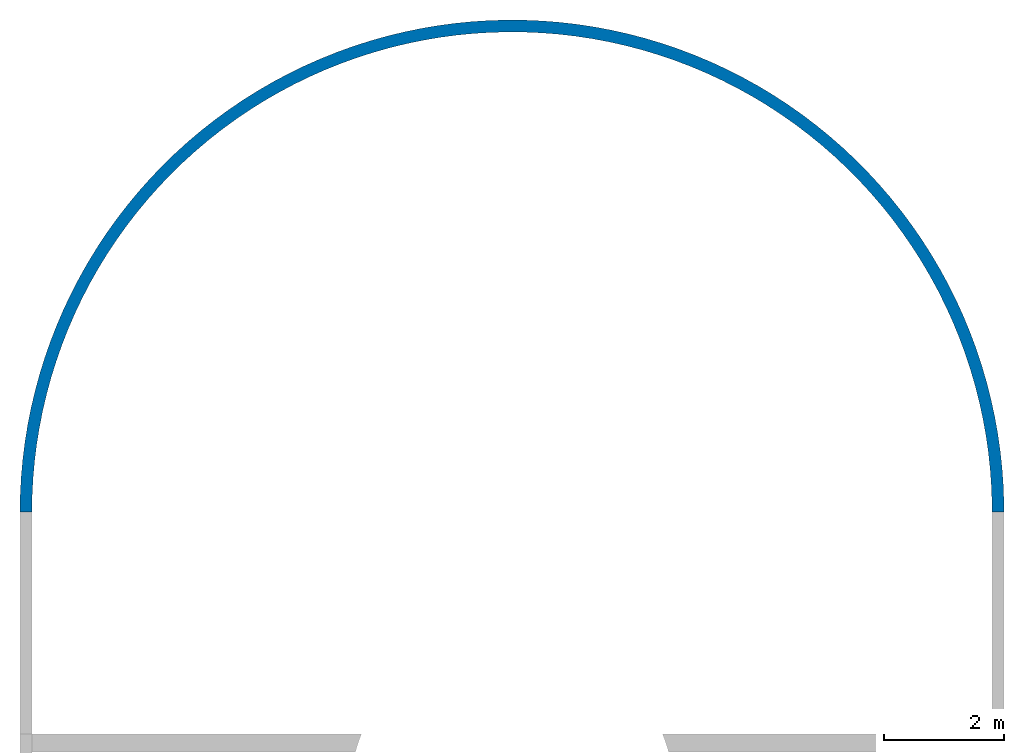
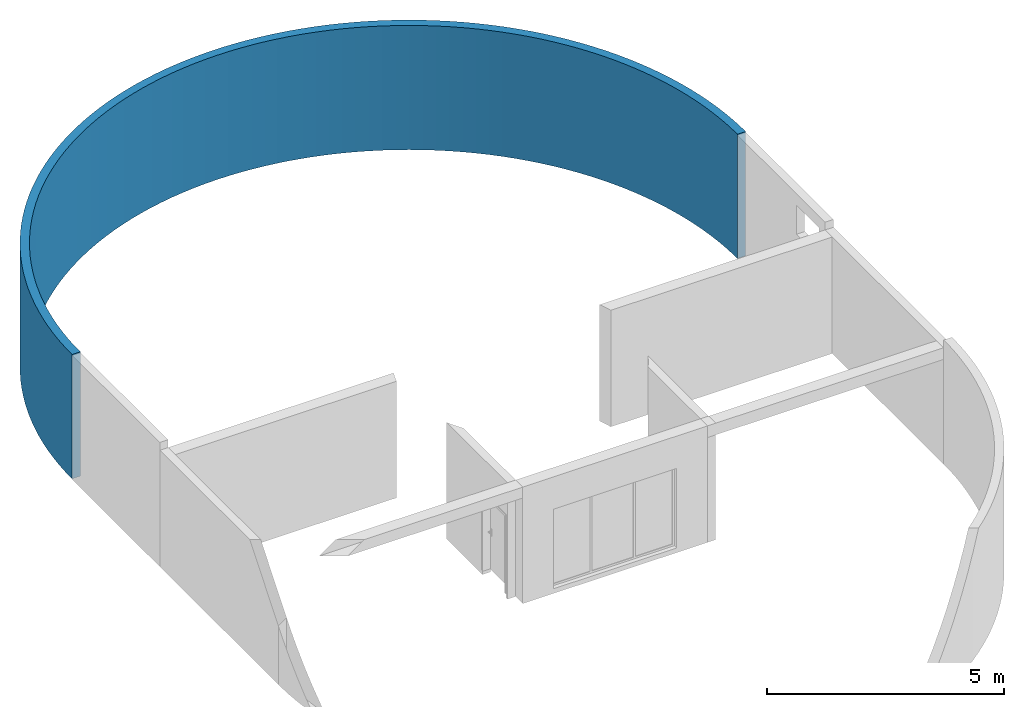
# One storey, part 5 of 5: 1 wall.
"""IFC4 building model written with IfcOpenShell, lengths in millimetres."""

from ifc_helpers import new_model, entity, si_unit, converted_unit, derived_unit, direction, frame, origin_with_axes, place, context, subcontext, project, spatial, polygons, material, constituent, constituent_set, type_object, element, save


model = new_model("IFC4")

# Units and contexts
model_context = context("Model", 3, precision=0.01, world=origin_with_axes(), true_north=direction((0.0, 1.0)))
body_context = subcontext(model_context, "Body", "Model", "MODEL_VIEW")
ifc_project = project(units=[si_unit("LENGTHUNIT", "METRE", prefix="MILLI"), si_unit("AREAUNIT", "SQUARE_METRE"), si_unit("VOLUMEUNIT", "CUBIC_METRE"), converted_unit("PLANEANGLEUNIT", "DEGREE", entity("IfcPlaneAngleMeasure", 0.0174532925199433), si_unit("PLANEANGLEUNIT", "RADIAN"), dimensions=[0, 0, 0, 0, 0, 0, 0]), converted_unit("TIMEUNIT", "Year", entity("IfcTimeMeasure", 31557600.0), si_unit("TIMEUNIT", "SECOND"), dimensions=[0, 0, 1, 0, 0, 0, 0]), si_unit("MASSUNIT", "GRAM", prefix="KILO"), si_unit("THERMODYNAMICTEMPERATUREUNIT", "DEGREE_CELSIUS"), si_unit("LUMINOUSINTENSITYUNIT", "LUMEN"), si_unit("ENERGYUNIT", "JOULE", prefix="MEGA"), derived_unit("THERMALCONDUCTANCEUNIT", [(si_unit("POWERUNIT", "WATT"), 1), (si_unit("LENGTHUNIT", "METRE"), -1), (si_unit("THERMODYNAMICTEMPERATUREUNIT", "KELVIN"), -1)]), derived_unit("SPECIFICHEATCAPACITYUNIT", [(si_unit("ENERGYUNIT", "JOULE"), 1), (si_unit("MASSUNIT", "GRAM", prefix="KILO"), -1), (si_unit("THERMODYNAMICTEMPERATUREUNIT", "KELVIN"), -1)]), derived_unit("MASSDENSITYUNIT", [(si_unit("MASSUNIT", "GRAM", prefix="KILO"), 1), (si_unit("VOLUMEUNIT", "CUBIC_METRE"), -1)])], contexts=[model_context])

# Site, building, storey
site_placement = place(None, origin_with_axes())
site = spatial("IfcSite", under=ifc_project, at=site_placement, Name="Exteriér", CompositionType="ELEMENT")
building_placement = place(site_placement, origin_with_axes())
building = spatial("IfcBuilding", under=site, at=building_placement, Name="Univerzitní lezecké centrum", CompositionType="ELEMENT")
storey_placement = place(building_placement, frame((0.0, 0.0, 3200.0), z_axis=(0.0, 0.0, 1.0), x_axis=(1.0, 0.0, 0.0)))
storey = spatial("IfcBuildingStorey", under=building, at=storey_placement, Name="2.NP", CompositionType="ELEMENT", Elevation=3200.0)

# Wall
ifc_material = material(Name="Beton vyztužený - vnější svislé kce")
ifc_constituent = constituent(ifc_material, Name="Beton vyztužený - vnější svislé kce")
ifc_constituent_set = constituent_set(constituents=[ifc_constituent], Name="!Vnější betonová stěna 200 mm")
wall_type = type_object("IfcWallType", Name="!Vnější betonová stěna 200 mm 200", PredefinedType="NOTDEFINED")
wall_placement = place(storey_placement, frame((10449.85164885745, 8399.999999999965, -100.000000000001), z_axis=(0.0, 0.0, 1.0), x_axis=(0.0, 1.0, 0.0)))
element("IfcWall", 1, at=wall_placement, inside=storey, type_object=wall_type, material=ifc_constituent_set, Name="St01", PredefinedType="NOTDEFINED", context=body_context, shape_type="Tessellation", body=[
    polygons([(145.5579959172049, -199.9999999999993, 0.0), (145.5579959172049, -199.9999999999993, 3199.999999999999), (0.0, -199.9999999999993, 3199.999999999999), (0.0, -199.9999999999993, 0.0), (436.4905859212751, -189.6680701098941, 0.0), (436.4905859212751, -189.6680701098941, 3199.999999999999), (142.0078008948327, 0.0, 3199.999999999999), (0.0, 0.0, 3199.999999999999), (0.0, 0.0, 0.0), (142.0078008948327, 0.0, 0.0), (726.8732015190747, -169.0172284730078, 0.0), (726.8732015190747, -169.0172284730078, 3199.999999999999), (425.8444740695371, 10.07993160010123, 3199.999999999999), (425.8444740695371, 10.07993160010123, 0.0), (1016.339963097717, -138.0734949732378, 0.0), (1016.339963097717, -138.0734949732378, 3199.999999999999), (709.1445868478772, 30.227094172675, 3199.999999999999), (709.1445868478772, 30.227094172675, 0.0), (1304.526145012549, -96.87585845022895, 0.0), (1304.526145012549, -96.87585845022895, 3199.999999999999), (991.5511835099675, 60.41610246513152, 3199.999999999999), (991.5511835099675, 60.41610246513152, 0.0), (1591.068635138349, -45.47622757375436, 0.0), (1591.068635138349, -45.47622757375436, 3199.999999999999), (1272.708434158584, 100.6089185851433, 3199.999999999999), (1272.708434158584, 100.6089185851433, 0.0), (1875.606392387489, 16.06063456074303, 0.0), (1875.606392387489, 16.06063456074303, 3199.999999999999), (1552.262083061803, 150.7548999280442, 3199.999999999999), (1552.262083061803, 150.7548999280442, 0.0), (2157.780901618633, 87.65719203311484, 0.0), (2157.780901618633, 87.65719203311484, 3199.999999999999), (1829.859895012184, 210.7908629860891, 3199.999999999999), (1829.859895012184, 210.7908629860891, 0.0), (2437.236625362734, 169.2232337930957, 0.0), (2437.236625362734, 169.2232337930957, 3199.999999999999), (2105.152099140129, 280.6411629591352, 3199.999999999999), (2105.152099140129, 280.6411629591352, 0.0), (2713.621451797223, 260.6559873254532, 0.0), (2713.621451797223, 260.6559873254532, 3199.999999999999), (2377.791829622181, 360.217789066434, 3199.999999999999), (2377.791829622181, 360.217789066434, 0.0), (2986.587138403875, 361.8402481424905, 0.0), (2986.587138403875, 361.8402481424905, 3199.999999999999), (2647.435562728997, 449.4204754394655, 3199.999999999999), (2647.435562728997, 449.4204754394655, 0.0), (3255.78975075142, 472.6485249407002, 0.0), (3255.78975075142, 472.6485249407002, 3199.999999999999), (2913.743549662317, 548.1368274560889, 3199.999999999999), (2913.743549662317, 548.1368274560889, 0.0), (3520.890095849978, 592.9412002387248, 0.0), (3520.890095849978, 592.9412002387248, 3199.999999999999), (3176.380244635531, 656.2424633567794, 3199.999999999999), (3176.380244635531, 656.2424633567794, 0.0), (3781.554149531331, 722.5667062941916, 0.0), (3781.554149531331, 722.5667062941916, 3199.999999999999), (3435.014727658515, 773.6011709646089, 3199.999999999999), (3435.014727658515, 773.6011709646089, 0.0), (4037.453477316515, 861.3617160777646, 0.0), (4037.453477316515, 861.3617160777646, 3199.999999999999), (3689.321121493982, 900.0650793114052, 3199.999999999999), (3689.321121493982, 900.0650793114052, 0.0), (4288.265648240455, 1009.151349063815, 0.0), (4288.265648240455, 1009.151349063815, 3199.999999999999), (3938.979002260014, 1035.474844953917, 3199.999999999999), (3938.979002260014, 1035.474844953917, 0.0), (4533.674641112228, 1165.749391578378, 0.0), (4533.674641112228, 1165.749391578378, 3199.999999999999), (4183.673803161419, 1179.659852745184, 3199.999999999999), (4183.673803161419, 1179.659852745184, 0.0), (4773.371242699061, 1330.958531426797, 0.0), (4773.371242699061, 1330.958531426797, 3199.999999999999), (4423.097210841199, 1332.438430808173, 3199.999999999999), (4423.097210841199, 1332.438430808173, 0.0), (5007.053437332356, 1504.570606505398, 0.0), (5007.053437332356, 1504.570606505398, 3199.999999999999), (4656.947553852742, 1493.618079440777, 3199.999999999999), (4656.947553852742, 1493.618079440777, 0.0), (5234.426787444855, 1686.366867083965, 0.0), (5234.426787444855, 1686.366867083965, 3199.999999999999), (4884.930182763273, 1662.995713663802, 3199.999999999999), (4884.930182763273, 1662.995713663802, 0.0), (5455.204804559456, 1876.118251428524, 0.0), (5455.204804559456, 1876.118251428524, 3199.999999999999), (5106.757841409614, 1840.357919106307, 3199.999999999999), (5106.757841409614, 1840.357919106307, 0.0), (5669.109310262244, 2073.585674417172, 0.0), (5669.109310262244, 2073.585674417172, 3199.999999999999), (5322.151028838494, 2025.481220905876, 3199.999999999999), (5322.151028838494, 2025.481220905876, 0.0), (5875.870786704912, 2278.520328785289, 0.0), (5875.870786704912, 2278.520328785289, 3199.999999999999), (5530.838351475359, 2218.132365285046, 3199.999999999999), (5530.838351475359, 2218.132365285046, 0.0), (6075.228716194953, 2490.663998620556, 0.0), (6075.228716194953, 2490.663998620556, 3199.999999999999), (5732.556865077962, 2418.06861344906, 3199.999999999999), (5732.556865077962, 2418.06861344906, 0.0), (6266.931909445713, 2709.749384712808, 0.0), (6266.931909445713, 2709.749384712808, 3199.999999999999), (5927.052406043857, 2625.038047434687, 3199.999999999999), (5927.052406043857, 2625.038047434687, 0.0), (6450.738822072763, 2935.50044134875, 0.0), (6450.738822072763, 2935.50044134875, 3199.999999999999), (6114.079911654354, 2838.779887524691, 3199.999999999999), (6114.079911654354, 2838.779887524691, 0.0), (6626.417858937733, 3167.632724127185, 0.0), (6626.417858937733, 3167.632724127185, 3199.999999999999), (6293.403728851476, 3059.024820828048, 3199.999999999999), (6293.403728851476, 3059.024820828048, 0.0), (6793.747665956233, 3405.853748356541, 0.0), (6793.747665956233, 3405.853748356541, 3199.999999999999), (6464.797911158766, 3285.495340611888, 3199.999999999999), (6464.797911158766, 3285.495340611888, 0.0), (6952.51740900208, 3649.863357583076, 0.0), (6952.51740900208, 3649.863357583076, 3199.999999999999), (6628.046503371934, 3517.906095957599, 3199.999999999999), (6628.046503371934, 3517.906095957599, 0.0), (7102.52703955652, 3899.354101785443, 0.0), (7102.52703955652, 3899.354101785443, 3199.999999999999), (6782.943813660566, 3755.964251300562, 3199.999999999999), (6782.943813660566, 3755.964251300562, 0.0), (7243.587546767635, 4154.011624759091, 0.0), (7243.587546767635, 4154.011624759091, 3199.999999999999), (6929.29467273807, 3999.369855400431, 3199.999999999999), (6929.29467273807, 3999.369855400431, 0.0), (7375.521195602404, 4413.51506020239, 0.0), (7375.521195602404, 4413.51506020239, 3199.999999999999), (7066.914679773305, 4247.816219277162, 3199.999999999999), (7066.914679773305, 4247.816219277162, 0.0), (7498.161750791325, 4677.537436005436, 0.0), (7498.161750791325, 4677.537436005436, 3199.999999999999), (7195.630434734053, 4500.990302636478, 3199.999999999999), (7195.630434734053, 4500.990302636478, 0.0), (7611.354686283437, 4945.746086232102, 0.0), (7611.354686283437, 4945.746086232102, 3199.999999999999), (7315.279756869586, 4758.573108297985, 3199.999999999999), (7315.279756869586, 4758.573108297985, 0.0), (7714.957379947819, 5217.803070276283, 0.0), (7714.957379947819, 5217.803070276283, 3199.999999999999), (7425.711889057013, 5020.240084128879, 3199.999999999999), (7425.711889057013, 5020.240084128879, 0.0), (7808.83929327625, 5493.365598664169, 0.0), (7808.83929327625, 5493.365598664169, 3199.999999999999), (7526.78768775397, 5285.66153197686, 3199.999999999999), (7526.78768775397, 5285.66153197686, 0.0), (7892.882135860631, 5772.086464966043, 0.0), (7892.882135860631, 5772.086464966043, 3199.999999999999), (7618.379798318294, 5554.503023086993, 3199.999999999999), (7618.379798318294, 5554.503023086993, 0.0), (7966.980014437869, 6053.614483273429, 0.0), (7966.980014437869, 6053.614483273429, 3199.999999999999), (7700.372815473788, 5826.425819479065, 3199.999999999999), (7700.372815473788, 5826.425819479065, 0.0), (8031.039566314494, 6337.59493069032, 0.0), (8031.039566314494, 6337.59493069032, 3199.999999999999), (7772.66342871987, 6101.087300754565, 3199.999999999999), (7772.66342871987, 6101.087300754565, 0.0), (8084.980077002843, 6623.669994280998, 0.0), (8084.980077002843, 6623.669994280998, 3199.999999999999), (7835.160552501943, 6378.141395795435, 3199.999999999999), (7835.160552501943, 6378.141395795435, 0.0), (8128.733581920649, 6911.479221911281, 0.0), (8128.733581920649, 6911.479221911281, 3199.999999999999), (7887.785440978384, 6657.23901881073, 3199.999999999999), (7887.785440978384, 6657.23901881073, 0.0), (8162.244952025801, 7200.659976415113, 0.0), (8162.244952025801, 7200.659976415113, 3199.999999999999), (7930.471787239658, 6938.028509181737, 3199.999999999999), (7930.471787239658, 6938.028509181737, 0.0), (8185.471963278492, 7490.847892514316, 0.0), (8185.471963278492, 7490.847892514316, 3199.999999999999), (7963.165806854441, 7220.15607455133, 3199.999999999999), (7963.165806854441, 7220.15607455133, 0.0), (8198.385349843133, 7781.677335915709, 0.0), (8198.385349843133, 7781.677335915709, 3199.999999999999), (7985.826305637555, 7503.266236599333, 3199.999999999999), (7985.826305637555, 7503.266236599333, 0.0), (8200.96884096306, 8072.78186400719, 0.0), (8200.96884096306, 8072.78186400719, 3199.999999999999), (7998.424731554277, 7787.002278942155, 3199.999999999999), (7998.424731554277, 7787.002278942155, 0.0), (8193.219181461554, 8363.794687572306, 0.0), (8193.219181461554, 8363.794687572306, 3199.999999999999), (8000.945210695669, 8071.006696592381, 3199.999999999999), (8000.945210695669, 8071.006696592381, 0.0), (8175.146135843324, 8654.349132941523, 0.0), (8175.146135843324, 8654.349132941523, 3199.999999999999), (7993.384567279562, 8354.921646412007, 3199.999999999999), (7993.384567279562, 8354.921646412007, 0.0), (8146.77247599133, 8944.07910399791, 0.0), (8146.77247599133, 8944.07910399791, 3199.999999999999), (7975.752327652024, 8638.38939799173, 3199.999999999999), (7975.752327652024, 8638.38939799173, 0.0), (8108.133952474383, 9232.619543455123, 0.0), (8108.133952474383, 9232.619543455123, 3199.999999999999), (7948.070708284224, 8921.052784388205, 3199.999999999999), (7948.070708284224, 8921.052784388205, 0.0), (8059.27924950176, 9519.606892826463, 0.0), (8059.27924950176, 9519.606892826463, 3199.999999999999), (7910.374587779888, 9202.555652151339, 3199.999999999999), (7910.374587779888, 9202.555652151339, 0.0), (8000.269923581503, 9804.679550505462, 0.0), (8000.269923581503, 9804.679550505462, 3199.999999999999), (7862.711462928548, 9482.543310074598, 3199.999999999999), (7862.711462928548, 9482.543310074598, 0.0), (7931.180325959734, 10087.47832738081, 0.0), (7931.180325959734, 10087.47832738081, 3199.999999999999), (7805.141388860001, 9760.662976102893, 3199.999999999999), (7805.141388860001, 9760.662976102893, 0.0), (7852.097508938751, 10367.64689941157, 0.0), (7852.097508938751, 10367.64689941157, 3199.999999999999), (7737.736903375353, 10036.56422183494, 3199.999999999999), (7737.736903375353, 10036.56422183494, 0.0), (7763.121116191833, 10644.83225659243, 0.0), (7763.121116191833, 10644.83225659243, 3199.999999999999), (7660.58293555, 10309.89941406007, 3199.999999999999), (7660.58293555, 10309.89941406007, 0.0), (7664.363257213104, 10918.68514774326, 0.0), (7664.363257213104, 10918.68514774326, 3199.999999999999), (7573.776698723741, 10580.3241527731, 3199.999999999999), (7573.776698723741, 10580.3241527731, 0.0), (7555.948366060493, 11188.86052056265, 0.0), (7555.948366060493, 11188.86052056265, 3199.999999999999), (7477.427568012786, 10847.49770511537, 3199.999999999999), (7477.427568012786, 10847.49770511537, 0.0), (7438.013044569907, 11455.01795639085, 0.0), (7438.013044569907, 11455.01795639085, 3199.999999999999), (7371.656942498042, 11111.08343469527, 3199.999999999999), (7371.656942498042, 11111.08343469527, 0.0), (7310.70589023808, 11716.82209913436, 0.0), (7310.70589023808, 11716.82209913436, 3199.999999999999), (7256.598092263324, 11370.74922574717, 3199.999999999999), (7256.598092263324, 11370.74922574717, 0.0), (7174.187308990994, 11973.94307781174, 0.0), (7174.187308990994, 11973.94307781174, 3199.999999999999), (7132.395990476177, 11626.1679015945, 3199.999999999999), (7132.395990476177, 11626.1679015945, 0.0), (7028.629313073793, 12226.05692218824, 0.0), (7028.629313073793, 12226.05692218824, 3199.999999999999), (6999.207130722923, 11877.0176368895, 3199.999999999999), (6999.207130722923, 11877.0176368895, 0.0), (6874.215304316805, 12472.84597097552, 0.0), (6874.215304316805, 12472.84597097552, 3199.999999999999), (6857.199329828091, 12122.98236311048, 3199.999999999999), (6857.199329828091, 12122.98236311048, 0.0), (6711.139843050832, 12713.99927208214, 0.0), (6711.139843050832, 12713.99927208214, 3199.999999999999), (6706.551516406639, 12363.75216680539, 3199.999999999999), (6706.551516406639, 12363.75216680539, 0.0), (6539.608402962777, 12949.21297441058, 0.0), (6539.608402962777, 12949.21297441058, 3199.999999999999), (6547.453505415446, 12599.02368008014, 3199.999999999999), (6547.453505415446, 12599.02368008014, 0.0), (6359.837112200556, 13178.19071070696, 0.0), (6359.837112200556, 13178.19071070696, 3199.999999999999), (6380.105758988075, 12828.50046283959, 3199.999999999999), (6380.105758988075, 12828.50046283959, 0.0), (6172.052481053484, 13400.64397098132, 0.0), (6172.052481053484, 13400.64397098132, 3199.999999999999), (6204.719133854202, 13051.89337629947, 3199.999999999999), (6204.719133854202, 13051.89337629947, 0.0), (5976.491116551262, 13616.29246602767, 0.0), (5976.491116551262, 13616.29246602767, 3199.999999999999), (6021.514615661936, 13268.92094729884, 3199.999999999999), (6021.514615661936, 13268.92094729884, 0.0), (5773.399424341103, 13824.86448058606, 0.0), (5773.399424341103, 13824.86448058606, 3199.999999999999), (5830.723040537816, 13479.30972295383, 3199.999999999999), (5830.723040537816, 13479.30972295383, 0.0), (5563.033298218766, 14026.09721570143, 0.0), (5563.033298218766, 14026.09721570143, 3199.999999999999), (5632.584804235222, 13682.79461520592, 3199.999999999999), (5632.584804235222, 13682.79461520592, 0.0), (5345.657797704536, 14219.73711984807, 0.0), (5345.657797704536, 14219.73711984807, 3199.999999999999), (5427.34955923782, 13879.11923483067, 3199.999999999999), (5427.34955923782, 13879.11923483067, 0.0), (5121.546814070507, 14405.54020840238, 0.0), (5121.546814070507, 14405.54020840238, 3199.999999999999), (5215.275900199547, 14068.03621448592, 3199.999999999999), (5215.275900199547, 14068.03621448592, 0.0), (4890.982725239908, 14583.27237106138, 0.0), (4890.982725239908, 14583.27237106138, 3199.999999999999), (4996.63103811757, 14249.30752039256, 3199.999999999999), (4996.63103811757, 14249.30752039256, 0.0), (4654.256039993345, 14752.70966681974, 0.0), (4654.256039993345, 14752.70966681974, 3199.999999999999), (4771.690463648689, 14422.704752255, 3199.999999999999), (4771.690463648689, 14422.704752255, 0.0), (4411.665031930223, 14913.63860613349, 0.0), (4411.665031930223, 14913.63860613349, 3199.999999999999), (4540.737599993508, 14588.00943104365, 3199.999999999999), (4540.737599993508, 14588.00943104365, 0.0), (4163.515363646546, 15065.85641991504, 0.0), (4163.515363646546, 15065.85641991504, 3199.999999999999), (4304.063445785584, 14745.01327427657, 3199.999999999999), (4304.063445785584, 14745.01327427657, 0.0), (3910.119701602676, 15209.17131502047, 0.0), (3910.119701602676, 15209.17131502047, 3199.999999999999), (4061.966208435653, 14893.51845845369, 3199.999999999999), (4061.966208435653, 14893.51845845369, 0.0), (3651.797322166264, 15343.40271590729, 0.0), (3651.797322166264, 15343.40271590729, 3199.999999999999), (3814.750928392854, 15033.33786831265, 3199.999999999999), (3814.750928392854, 15033.33786831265, 0.0), (3388.873709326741, 15468.38149215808, 0.0), (3388.873709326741, 15468.38149215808, 3199.999999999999), (3562.729094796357, 15164.29533259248, 3199.999999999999), (3562.729094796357, 15164.29533259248, 0.0), (3121.680144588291, 15583.95017158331, 0.0), (3121.680144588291, 15583.95017158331, 3199.999999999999), (3306.218253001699, 15286.22584600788, 3199.999999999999), (3306.218253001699, 15286.22584600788, 0.0), (2850.553289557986, 15689.96313863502, 0.0), (2850.553289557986, 15689.96313863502, 3199.999999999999), (3045.541604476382, 15398.97577715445, 3199.999999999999), (3045.541604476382, 15398.97577715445, 0.0), (2575.834761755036, 15786.28681788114, 0.0), (2575.834761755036, 15786.28681788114, 3199.999999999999), (2781.027599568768, 15502.40306208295, 3199.999999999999), (2781.027599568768, 15502.40306208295, 0.0), (2297.870704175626, 15872.79984230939, 0.0), (2297.870704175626, 15872.79984230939, 3199.999999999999), (2513.009523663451, 15596.37738329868, 3199.999999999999), (2513.009523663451, 15596.37738329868, 0.0), (2017.011349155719, 15949.39320624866, 0.0), (2017.011349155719, 15949.39320624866, 3199.999999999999), (2241.825077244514, 15680.78033396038, 3199.999999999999), (2241.825077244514, 15680.78033396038, 0.0), (1733.610577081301, 16015.97040271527, 0.0), (1733.610577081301, 16015.97040271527, 3199.999999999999), (1967.815950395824, 15755.50556707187, 3199.999999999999), (1967.815950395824, 15755.50556707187, 0.0), (1448.025470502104, 16072.44754501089, 0.0), (1448.025470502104, 16072.44754501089, 3199.999999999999), (1691.32739227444, 15820.45892947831, 3199.999999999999), (1691.32739227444, 15820.45892947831, 0.0), (1160.615864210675, 16118.75347241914, 0.0), (1160.615864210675, 16118.75347241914, 3199.999999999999), (1412.707776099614, 15875.55858049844, 3199.999999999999), (1412.707776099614, 15875.55858049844, 0.0), (871.743891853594, 16154.82983986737, 0.0), (871.743891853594, 16154.82983986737, 3199.999999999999), (1132.308160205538, 15920.73509504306, 3199.999999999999), (1132.308160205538, 15920.73509504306, 0.0), (581.7735296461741, 16180.63119144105, 0.0), (581.7735296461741, 16180.63119144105, 3199.999999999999), (850.4818457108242, 15955.93155109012, 3199.999999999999), (850.4818457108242, 15955.93155109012, 0.0), (291.0701377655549, 16196.12501765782, 0.0), (291.0701377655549, 16196.12501765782, 3199.999999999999), (567.5839313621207, 15981.10360140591, 3199.999999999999), (567.5839313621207, 15981.10360140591, 0.0), (0.0, 16199.99999999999, 0.0), (0.0, 16199.99999999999, 3199.999999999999), (283.9708661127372, 15996.21952942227, 3199.999999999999), (283.9708661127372, 15996.21952942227, 0.0), (0.0, 15999.99999999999, 0.0), (0.0, 15999.99999999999, 3199.999999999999)], [[[1, 2, 3, 4]], [[5, 6, 2, 1]], [[2, 7, 8, 3]], [[4, 3, 8, 9]], [[10, 1, 4, 9]], [[11, 12, 6, 5]], [[6, 13, 7, 2]], [[14, 5, 1, 10]], [[7, 10, 9, 8]], [[15, 16, 12, 11]], [[12, 17, 13, 6]], [[18, 11, 5, 14]], [[13, 14, 10, 7]], [[19, 20, 16, 15]], [[16, 21, 17, 12]], [[22, 15, 11, 18]], [[17, 18, 14, 13]], [[23, 24, 20, 19]], [[20, 25, 21, 16]], [[26, 19, 15, 22]], [[21, 22, 18, 17]], [[27, 28, 24, 23]], [[24, 29, 25, 20]], [[30, 23, 19, 26]], [[25, 26, 22, 21]], [[31, 32, 28, 27]], [[28, 33, 29, 24]], [[34, 27, 23, 30]], [[29, 30, 26, 25]], [[35, 36, 32, 31]], [[32, 37, 33, 28]], [[38, 31, 27, 34]], [[33, 34, 30, 29]], [[39, 40, 36, 35]], [[36, 41, 37, 32]], [[42, 35, 31, 38]], [[37, 38, 34, 33]], [[43, 44, 40, 39]], [[40, 45, 41, 36]], [[46, 39, 35, 42]], [[41, 42, 38, 37]], [[47, 48, 44, 43]], [[44, 49, 45, 40]], [[50, 43, 39, 46]], [[45, 46, 42, 41]], [[51, 52, 48, 47]], [[48, 53, 49, 44]], [[54, 47, 43, 50]], [[49, 50, 46, 45]], [[55, 56, 52, 51]], [[52, 57, 53, 48]], [[58, 51, 47, 54]], [[53, 54, 50, 49]], [[59, 60, 56, 55]], [[56, 61, 57, 52]], [[62, 55, 51, 58]], [[57, 58, 54, 53]], [[63, 64, 60, 59]], [[60, 65, 61, 56]], [[66, 59, 55, 62]], [[61, 62, 58, 57]], [[67, 68, 64, 63]], [[64, 69, 65, 60]], [[70, 63, 59, 66]], [[65, 66, 62, 61]], [[71, 72, 68, 67]], [[68, 73, 69, 64]], [[74, 67, 63, 70]], [[69, 70, 66, 65]], [[75, 76, 72, 71]], [[72, 77, 73, 68]], [[78, 71, 67, 74]], [[73, 74, 70, 69]], [[79, 80, 76, 75]], [[76, 81, 77, 72]], [[82, 75, 71, 78]], [[77, 78, 74, 73]], [[83, 84, 80, 79]], [[80, 85, 81, 76]], [[86, 79, 75, 82]], [[81, 82, 78, 77]], [[87, 88, 84, 83]], [[84, 89, 85, 80]], [[90, 83, 79, 86]], [[85, 86, 82, 81]], [[91, 92, 88, 87]], [[88, 93, 89, 84]], [[94, 87, 83, 90]], [[89, 90, 86, 85]], [[95, 96, 92, 91]], [[92, 97, 93, 88]], [[98, 91, 87, 94]], [[93, 94, 90, 89]], [[99, 100, 96, 95]], [[96, 101, 97, 92]], [[102, 95, 91, 98]], [[97, 98, 94, 93]], [[103, 104, 100, 99]], [[100, 105, 101, 96]], [[106, 99, 95, 102]], [[101, 102, 98, 97]], [[107, 108, 104, 103]], [[104, 109, 105, 100]], [[110, 103, 99, 106]], [[105, 106, 102, 101]], [[111, 112, 108, 107]], [[108, 113, 109, 104]], [[114, 107, 103, 110]], [[109, 110, 106, 105]], [[115, 116, 112, 111]], [[112, 117, 113, 108]], [[118, 111, 107, 114]], [[113, 114, 110, 109]], [[119, 120, 116, 115]], [[116, 121, 117, 112]], [[122, 115, 111, 118]], [[117, 118, 114, 113]], [[123, 124, 120, 119]], [[120, 125, 121, 116]], [[126, 119, 115, 122]], [[121, 122, 118, 117]], [[127, 128, 124, 123]], [[124, 129, 125, 120]], [[130, 123, 119, 126]], [[125, 126, 122, 121]], [[131, 132, 128, 127]], [[128, 133, 129, 124]], [[134, 127, 123, 130]], [[129, 130, 126, 125]], [[135, 136, 132, 131]], [[132, 137, 133, 128]], [[138, 131, 127, 134]], [[133, 134, 130, 129]], [[139, 140, 136, 135]], [[136, 141, 137, 132]], [[142, 135, 131, 138]], [[137, 138, 134, 133]], [[143, 144, 140, 139]], [[140, 145, 141, 136]], [[146, 139, 135, 142]], [[141, 142, 138, 137]], [[147, 148, 144, 143]], [[144, 149, 145, 140]], [[150, 143, 139, 146]], [[145, 146, 142, 141]], [[151, 152, 148, 147]], [[148, 153, 149, 144]], [[154, 147, 143, 150]], [[149, 150, 146, 145]], [[155, 156, 152, 151]], [[152, 157, 153, 148]], [[158, 151, 147, 154]], [[153, 154, 150, 149]], [[159, 160, 156, 155]], [[156, 161, 157, 152]], [[162, 155, 151, 158]], [[157, 158, 154, 153]], [[163, 164, 160, 159]], [[160, 165, 161, 156]], [[166, 159, 155, 162]], [[161, 162, 158, 157]], [[167, 168, 164, 163]], [[164, 169, 165, 160]], [[170, 163, 159, 166]], [[165, 166, 162, 161]], [[171, 172, 168, 167]], [[168, 173, 169, 164]], [[174, 167, 163, 170]], [[169, 170, 166, 165]], [[175, 176, 172, 171]], [[172, 177, 173, 168]], [[178, 171, 167, 174]], [[173, 174, 170, 169]], [[179, 180, 176, 175]], [[176, 181, 177, 172]], [[182, 175, 171, 178]], [[177, 178, 174, 173]], [[183, 184, 180, 179]], [[180, 185, 181, 176]], [[186, 179, 175, 182]], [[181, 182, 178, 177]], [[187, 188, 184, 183]], [[184, 189, 185, 180]], [[190, 183, 179, 186]], [[185, 186, 182, 181]], [[191, 192, 188, 187]], [[188, 193, 189, 184]], [[194, 187, 183, 190]], [[189, 190, 186, 185]], [[195, 196, 192, 191]], [[192, 197, 193, 188]], [[198, 191, 187, 194]], [[193, 194, 190, 189]], [[199, 200, 196, 195]], [[196, 201, 197, 192]], [[202, 195, 191, 198]], [[197, 198, 194, 193]], [[203, 204, 200, 199]], [[200, 205, 201, 196]], [[206, 199, 195, 202]], [[201, 202, 198, 197]], [[207, 208, 204, 203]], [[204, 209, 205, 200]], [[210, 203, 199, 206]], [[205, 206, 202, 201]], [[211, 212, 208, 207]], [[208, 213, 209, 204]], [[214, 207, 203, 210]], [[209, 210, 206, 205]], [[215, 216, 212, 211]], [[212, 217, 213, 208]], [[218, 211, 207, 214]], [[213, 214, 210, 209]], [[219, 220, 216, 215]], [[216, 221, 217, 212]], [[222, 215, 211, 218]], [[217, 218, 214, 213]], [[223, 224, 220, 219]], [[220, 225, 221, 216]], [[226, 219, 215, 222]], [[221, 222, 218, 217]], [[227, 228, 224, 223]], [[224, 229, 225, 220]], [[230, 223, 219, 226]], [[225, 226, 222, 221]], [[231, 232, 228, 227]], [[228, 233, 229, 224]], [[234, 227, 223, 230]], [[229, 230, 226, 225]], [[235, 236, 232, 231]], [[232, 237, 233, 228]], [[238, 231, 227, 234]], [[233, 234, 230, 229]], [[239, 240, 236, 235]], [[236, 241, 237, 232]], [[242, 235, 231, 238]], [[237, 238, 234, 233]], [[243, 244, 240, 239]], [[240, 245, 241, 236]], [[246, 239, 235, 242]], [[241, 242, 238, 237]], [[247, 248, 244, 243]], [[244, 249, 245, 240]], [[250, 243, 239, 246]], [[245, 246, 242, 241]], [[251, 252, 248, 247]], [[248, 253, 249, 244]], [[254, 247, 243, 250]], [[249, 250, 246, 245]], [[255, 256, 252, 251]], [[252, 257, 253, 248]], [[258, 251, 247, 254]], [[253, 254, 250, 249]], [[259, 260, 256, 255]], [[256, 261, 257, 252]], [[262, 255, 251, 258]], [[257, 258, 254, 253]], [[263, 264, 260, 259]], [[260, 265, 261, 256]], [[266, 259, 255, 262]], [[261, 262, 258, 257]], [[267, 268, 264, 263]], [[264, 269, 265, 260]], [[270, 263, 259, 266]], [[265, 266, 262, 261]], [[271, 272, 268, 267]], [[268, 273, 269, 264]], [[274, 267, 263, 270]], [[269, 270, 266, 265]], [[275, 276, 272, 271]], [[272, 277, 273, 268]], [[278, 271, 267, 274]], [[273, 274, 270, 269]], [[279, 280, 276, 275]], [[276, 281, 277, 272]], [[282, 275, 271, 278]], [[277, 278, 274, 273]], [[283, 284, 280, 279]], [[280, 285, 281, 276]], [[286, 279, 275, 282]], [[281, 282, 278, 277]], [[287, 288, 284, 283]], [[284, 289, 285, 280]], [[290, 283, 279, 286]], [[285, 286, 282, 281]], [[291, 292, 288, 287]], [[288, 293, 289, 284]], [[294, 287, 283, 290]], [[289, 290, 286, 285]], [[295, 296, 292, 291]], [[292, 297, 293, 288]], [[298, 291, 287, 294]], [[293, 294, 290, 289]], [[299, 300, 296, 295]], [[296, 301, 297, 292]], [[302, 295, 291, 298]], [[297, 298, 294, 293]], [[303, 304, 300, 299]], [[300, 305, 301, 296]], [[306, 299, 295, 302]], [[301, 302, 298, 297]], [[307, 308, 304, 303]], [[304, 309, 305, 300]], [[310, 303, 299, 306]], [[305, 306, 302, 301]], [[311, 312, 308, 307]], [[308, 313, 309, 304]], [[314, 307, 303, 310]], [[309, 310, 306, 305]], [[315, 316, 312, 311]], [[312, 317, 313, 308]], [[318, 311, 307, 314]], [[313, 314, 310, 309]], [[319, 320, 316, 315]], [[316, 321, 317, 312]], [[322, 315, 311, 318]], [[317, 318, 314, 313]], [[323, 324, 320, 319]], [[320, 325, 321, 316]], [[326, 319, 315, 322]], [[321, 322, 318, 317]], [[327, 328, 324, 323]], [[324, 329, 325, 320]], [[330, 323, 319, 326]], [[325, 326, 322, 321]], [[331, 332, 328, 327]], [[328, 333, 329, 324]], [[334, 327, 323, 330]], [[329, 330, 326, 325]], [[335, 336, 332, 331]], [[332, 337, 333, 328]], [[338, 331, 327, 334]], [[333, 334, 330, 329]], [[339, 340, 336, 335]], [[336, 341, 337, 332]], [[342, 335, 331, 338]], [[337, 338, 334, 333]], [[343, 344, 340, 339]], [[340, 345, 341, 336]], [[346, 339, 335, 342]], [[341, 342, 338, 337]], [[347, 348, 344, 343]], [[344, 349, 345, 340]], [[350, 343, 339, 346]], [[345, 346, 342, 341]], [[351, 352, 348, 347]], [[348, 353, 349, 344]], [[354, 347, 343, 350]], [[349, 350, 346, 345]], [[355, 356, 352, 351]], [[352, 357, 353, 348]], [[358, 351, 347, 354]], [[353, 354, 350, 349]], [[355, 359, 360, 356]], [[356, 360, 357, 352]], [[359, 355, 351, 358]], [[357, 358, 354, 353]], [[360, 359, 358, 357]]], closed=True),
])

save(model, "model.ifc")
